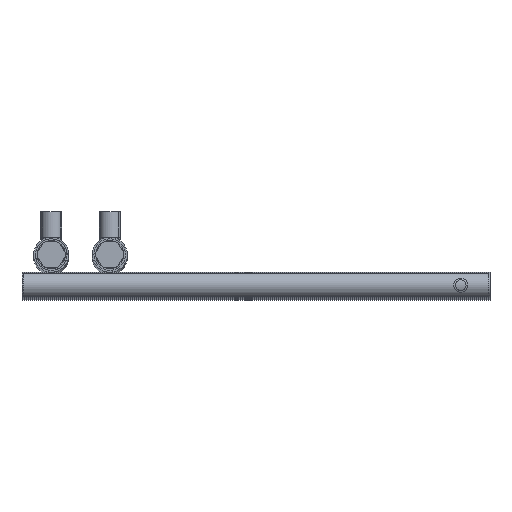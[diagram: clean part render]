
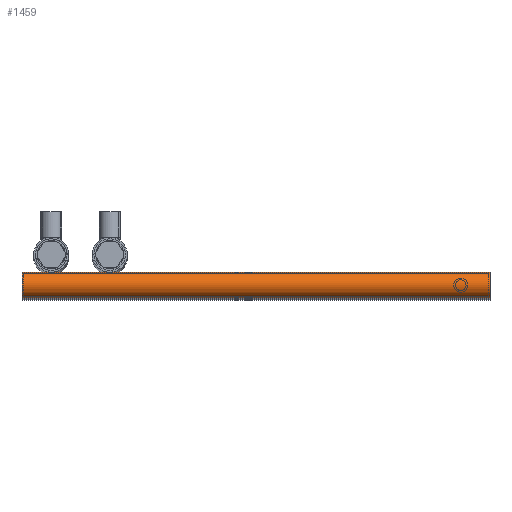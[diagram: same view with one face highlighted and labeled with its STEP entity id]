
A CAD part, top view. The second image highlights one B-rep face of the part: STEP entity #1459.
In plain terms, the highlighted cylindrical face has radius 11 mm (diameter 22 mm), a full revolution.
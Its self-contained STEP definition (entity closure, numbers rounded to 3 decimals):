
#346=CIRCLE('',#1596,11.);
#347=CIRCLE('',#1598,11.);
#466=FACE_BOUND('',#684,.T.);
#521=FACE_OUTER_BOUND('',#683,.T.);
#683=EDGE_LOOP('',(#1277));
#684=EDGE_LOOP('',(#1278));
#903=VERTEX_POINT('',#4209);
#904=VERTEX_POINT('',#4212);
#1036=EDGE_CURVE('',#903,#903,#346,.T.);
#1037=EDGE_CURVE('',#904,#904,#347,.T.);
#1277=ORIENTED_EDGE('',*,*,#1037,.F.);
#1278=ORIENTED_EDGE('',*,*,#1036,.T.);
#1410=CYLINDRICAL_SURFACE('',#1599,11.);
#1459=ADVANCED_FACE('',(#521,#466),#1410,.T.);
#1596=AXIS2_PLACEMENT_3D('',#4210,#1818,#1819);
#1598=AXIS2_PLACEMENT_3D('',#4213,#1822,#1823);
#1599=AXIS2_PLACEMENT_3D('',#4214,#1824,#1825);
#1818=DIRECTION('center_axis',(0.,0.,-1.));
#1819=DIRECTION('ref_axis',(-1.,0.,0.));
#1822=DIRECTION('center_axis',(0.,0.,-1.));
#1823=DIRECTION('ref_axis',(-1.,0.,0.));
#1824=DIRECTION('center_axis',(0.,0.,-1.));
#1825=DIRECTION('ref_axis',(-1.,0.,0.));
#4209=CARTESIAN_POINT('',(11.,-11.,0.));
#4210=CARTESIAN_POINT('Origin',(0.,-11.,0.));
#4212=CARTESIAN_POINT('',(11.,-11.,-400.));
#4213=CARTESIAN_POINT('Origin',(0.,-11.,-400.));
#4214=CARTESIAN_POINT('Origin',(0.,-11.,0.));
